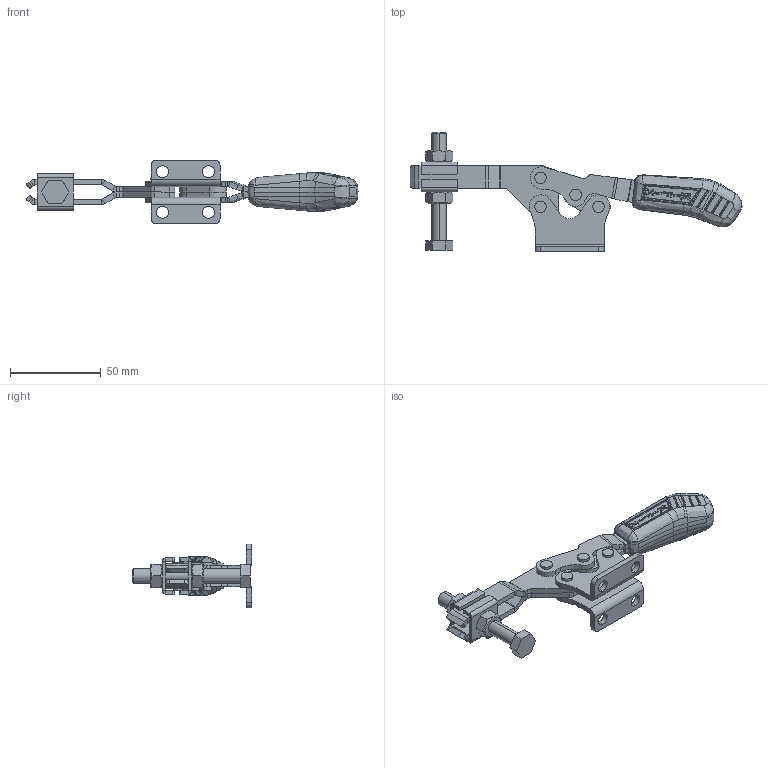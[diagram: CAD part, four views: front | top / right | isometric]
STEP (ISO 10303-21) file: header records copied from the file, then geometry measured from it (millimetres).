
FILE_DESCRIPTION (( 'STEP AP203' ), '1' );
FILE_NAME ('KF-522 D.STEP', '2014-08-18T12:54:20', ( 'Ricardo' ), ( '' ), 'SwSTEP 2.0', 'SolidWorks 2013', '' );
FILE_SCHEMA (( 'CONFIG_CONTROL_DESIGN' ));
Length unit declared in the file: millimetre
Products named in the file (13): 06.50004; 08.10041; 14.10001; 12.50010; 02.12061_Direita; 11.50002; 02.12061_Esquerda; 07.60005; 01.10133_Direita; KF-522 D; 01.10133_Esquerda; 03.13022_Direita; 03.13022_Esquerda
Assembly tree (18 placements, depth 2):
  KF-522 D
    02.12061_Direita
    02.12061_Esquerda
    01.10133_Direita
    01.10133_Esquerda
    03.13022_Direita
    03.13022_Esquerda
    08.10041  x2
    06.50004  x4
    14.10001  x2
    12.50010
    11.50002  x2
    07.60005
Bounding box: 183.32 x 66 x 35.1 mm (x, y, z)
Volume: 49635.2 mm3; surface area: 35364.8 mm2
Topology: 18 solids, 18 shells, 1016 faces, 2566 edges, 1601 vertices
Faces by surface type: cylinder 350, plane 309, bspline 277, sphere 50, cone 28, torus 2
Entity records: 36382 total; most frequent: CARTESIAN_POINT 14877, ORIENTED_EDGE 4728, DIRECTION 3421, EDGE_CURVE 2364, VERTEX_POINT 1482, AXIS2_PLACEMENT_3D 1262, EDGE_LOOP 992, ADVANCED_FACE 927
